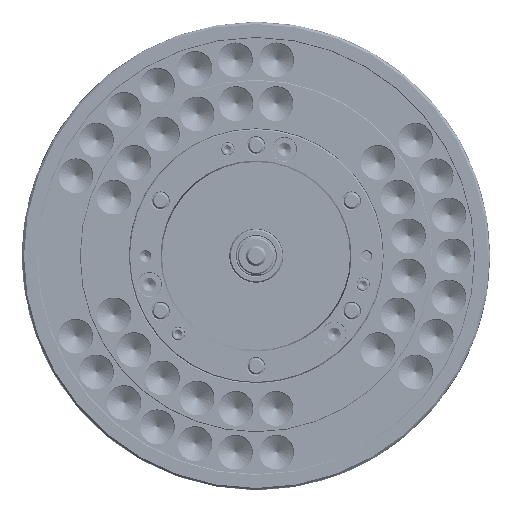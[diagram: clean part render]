
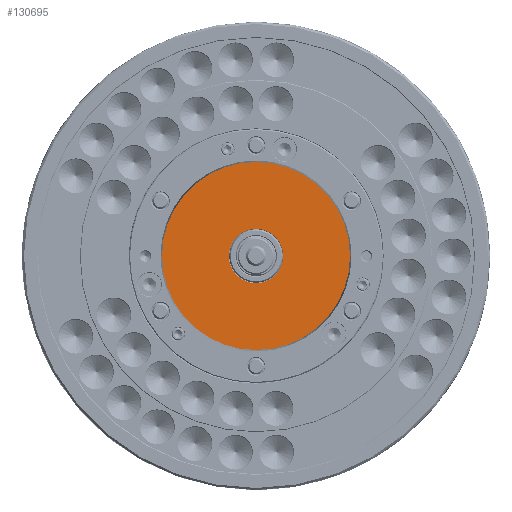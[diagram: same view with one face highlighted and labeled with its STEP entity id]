
A CAD part, left-side view. The second image highlights one B-rep face of the part: STEP entity #130695.
In plain terms, the highlighted planar face has unit normal (-1, 0, 0).
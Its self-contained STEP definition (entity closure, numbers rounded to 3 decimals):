
#23630 = FACE_BOUND ( 'NONE', #239814, .T. ) ;
#39328 = CIRCLE ( 'NONE', #226936, 140.7 ) ;
#48363 = DIRECTION ( 'NONE',  ( 1., 0., 0. ) ) ;
#52035 = CARTESIAN_POINT ( 'NONE',  ( -145., 0., 140.7 ) ) ;
#70949 = DIRECTION ( 'NONE',  ( -1., 0., 0. ) ) ;
#77227 = CIRCLE ( 'NONE', #244992, 40.6 ) ;
#79658 = VERTEX_POINT ( 'NONE', #208426 ) ;
#89221 = DIRECTION ( 'NONE',  ( 0., 0., 1. ) ) ;
#99965 = VERTEX_POINT ( 'NONE', #254742 ) ;
#100114 = ORIENTED_EDGE ( 'NONE', *, *, #260029, .F. ) ;
#109393 = CARTESIAN_POINT ( 'NONE',  ( -145., 0., 0. ) ) ;
#117907 = FACE_OUTER_BOUND ( 'NONE', #248376, .T. ) ;
#130695 = ADVANCED_FACE ( 'NONE', ( #23630, #117907 ), #212238, .F. ) ;
#142625 = DIRECTION ( 'NONE',  ( 0., 0., -1. ) ) ;
#153393 = ORIENTED_EDGE ( 'NONE', *, *, #297844, .T. ) ;
#158944 = CARTESIAN_POINT ( 'NONE',  ( -145., 0., 0. ) ) ;
#167987 = CARTESIAN_POINT ( 'NONE',  ( -145., 0., 40.6 ) ) ;
#184310 = EDGE_CURVE ( 'NONE', #232430, #99965, #187072, .T. ) ;
#185273 = CARTESIAN_POINT ( 'NONE',  ( -145., 0., 0. ) ) ;
#187072 = CIRCLE ( 'NONE', #295617, 140.7 ) ;
#189035 = CARTESIAN_POINT ( 'NONE',  ( -145., 140.7, 0. ) ) ;
#191526 = DIRECTION ( 'NONE',  ( 0., 0., 1. ) ) ;
#208426 = CARTESIAN_POINT ( 'NONE',  ( -145., 0., -40.6 ) ) ;
#212238 = PLANE ( 'NONE',  #254691 ) ;
#212424 = VERTEX_POINT ( 'NONE', #167987 ) ;
#220227 = ORIENTED_EDGE ( 'NONE', *, *, #184310, .T. ) ;
#226936 = AXIS2_PLACEMENT_3D ( 'NONE', #185273, #228622, #231684 ) ;
#228622 = DIRECTION ( 'NONE',  ( -1., 0., 0. ) ) ;
#230082 = DIRECTION ( 'NONE',  ( -1., 0., 0. ) ) ;
#231684 = DIRECTION ( 'NONE',  ( 0., 0., 1. ) ) ;
#232430 = VERTEX_POINT ( 'NONE', #52035 ) ;
#239814 = EDGE_LOOP ( 'NONE', ( #271664, #100114 ) ) ;
#244992 = AXIS2_PLACEMENT_3D ( 'NONE', #109393, #299490, #89221 ) ;
#248376 = EDGE_LOOP ( 'NONE', ( #220227, #153393 ) ) ;
#254691 = AXIS2_PLACEMENT_3D ( 'NONE', #189035, #48363, #142625 ) ;
#254742 = CARTESIAN_POINT ( 'NONE',  ( -145., 0., -140.7 ) ) ;
#260029 = EDGE_CURVE ( 'NONE', #79658, #212424, #77227, .T. ) ;
#271664 = ORIENTED_EDGE ( 'NONE', *, *, #274290, .F. ) ;
#274290 = EDGE_CURVE ( 'NONE', #212424, #79658, #276412, .T. ) ;
#276412 = CIRCLE ( 'NONE', #291272, 40.6 ) ;
#291272 = AXIS2_PLACEMENT_3D ( 'NONE', #158944, #230082, #298097 ) ;
#295617 = AXIS2_PLACEMENT_3D ( 'NONE', #305891, #70949, #191526 ) ;
#297844 = EDGE_CURVE ( 'NONE', #99965, #232430, #39328, .T. ) ;
#298097 = DIRECTION ( 'NONE',  ( 0., 0., 1. ) ) ;
#299490 = DIRECTION ( 'NONE',  ( -1., 0., 0. ) ) ;
#305891 = CARTESIAN_POINT ( 'NONE',  ( -145., 0., 0. ) ) ;
